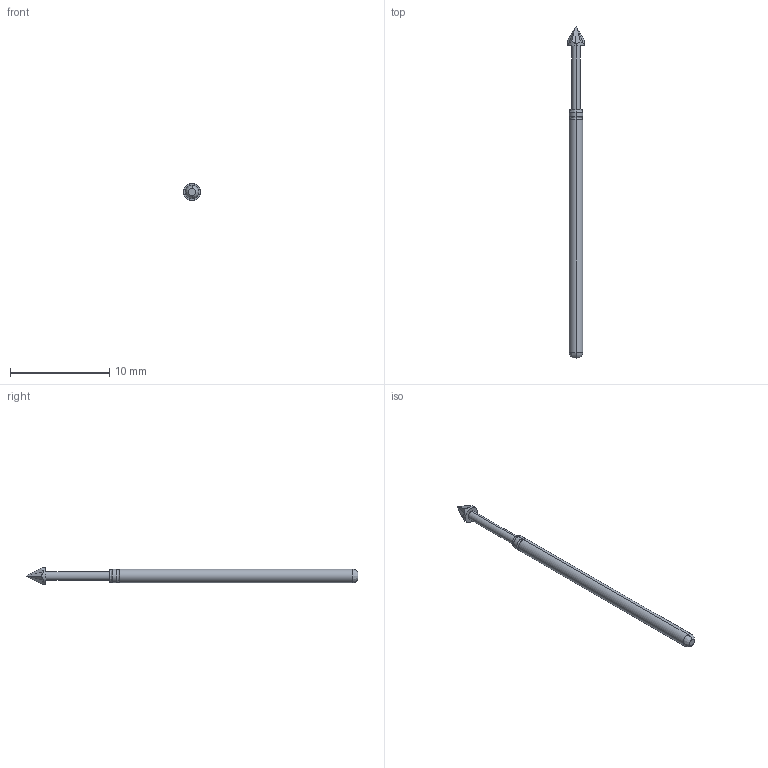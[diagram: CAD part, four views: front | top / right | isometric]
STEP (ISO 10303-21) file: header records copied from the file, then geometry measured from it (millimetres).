
FILE_DESCRIPTION (( 'STEP AP214' ), '1' );
FILE_NAME ('PA4M.STEP', '2022-07-11T11:13:31', ( '' ), ( '' ), 'SwSTEP 2.0', 'SolidWorks 2022', '' );
FILE_SCHEMA (( 'AUTOMOTIVE_DESIGN' ));
Length unit declared in the file: millimetre
Products named in the file (1): PA4M
Bounding box: 1.7 x 33.4 x 1.7 mm (x, y, z)
Volume: 42.6 mm3; surface area: 135.5 mm2
Topology: 1 solids, 1 shells, 29 faces, 56 edges, 31 vertices
Faces by surface type: plane 15, cylinder 8, bspline 6
Entity records: 888 total; most frequent: CARTESIAN_POINT 333, ORIENTED_EDGE 112, DIRECTION 104, EDGE_CURVE 56, AXIS2_PLACEMENT_3D 42, EDGE_LOOP 31, VERTEX_POINT 31, FACE_OUTER_BOUND 29
